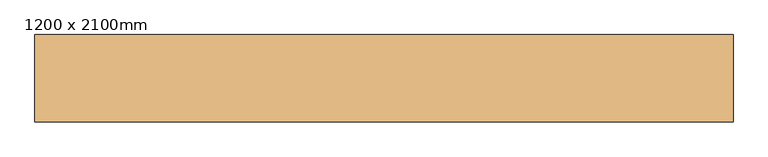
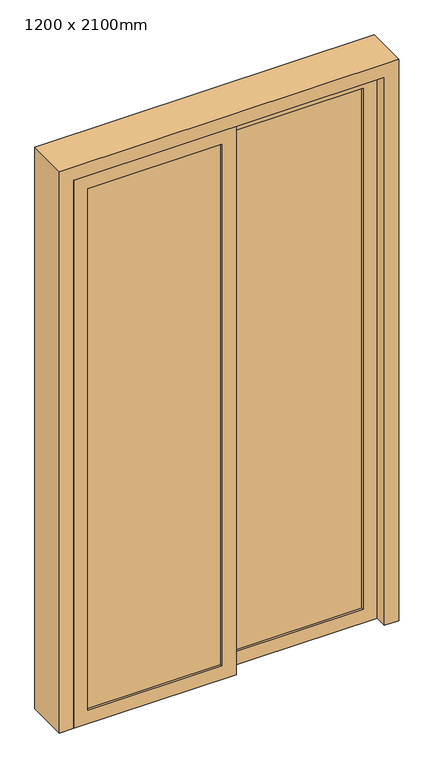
"""IFC4 building model written with IfcOpenShell, lengths in millimetres: door geometry, Porta veneziana de correr dupla sem revestimento : 1200 x 2100mm."""

from ifc_helpers import new_model, si_unit, point, frame, frame_2d, origin, place, context, project, spatial, polyline, circle_curve, trimmed, segment, composite_curve, outline, extrude, source, transform, mapped, element, save


def door_1200_x_2100mm_dfe7479b(model_context):
    return source(origin(), model_context, "Body", "SweptSolid", [
        extrude(outline(composite_curve([segment(trimmed(circle_curve(frame_2d((990.0, -10.0)), 10.0), [point((1000.0, -10.0))], [point((990.0, -20.0))], False, "CARTESIAN"), True, "CONTINUOUS"), segment(polyline([(990.0, -20.0), (810.0, -20.0)]), True, "CONTINUOUS"), segment(trimmed(circle_curve(frame_2d((810.0, -10.0)), 10.0), [point((810.0, -20.0))], [point((800.0, -10.0))], False, "CARTESIAN"), True, "CONTINUOUS"), segment(polyline([(800.0, -10.0), (800.0, 10.0)]), True, "CONTINUOUS"), segment(trimmed(circle_curve(frame_2d((810.0, 10.0)), 10.0), [point((800.0, 10.0))], [point((810.0, 20.0))], False, "CARTESIAN"), True, "CONTINUOUS"), segment(polyline([(810.0, 20.0), (990.0, 20.0)]), True, "CONTINUOUS"), segment(trimmed(circle_curve(frame_2d((990.0, 10.0)), 10.0), [point((990.0, 20.0))], [point((1000.0, 10.0))], False, "CARTESIAN"), True, "CONTINUOUS"), segment(polyline([(1000.0, 10.0), (1000.0, -10.0)]), True, "CONTINUOUS")], self_intersect=False), holes=[composite_curve([segment(trimmed(circle_curve(frame_2d((985.0, 0.0)), 5.0), [point((985.0, -5.0))], [point((985.0, 5.0))], True, "CARTESIAN"), True, "CONTINUOUS"), segment(trimmed(circle_curve(frame_2d((985.0, 0.0)), 5.0), [point((985.0, 5.0))], [point((985.0, -5.0))], True, "CARTESIAN"), True, "CONTINUOUS")], self_intersect=False), composite_curve([segment(trimmed(circle_curve(frame_2d((815.0, 0.0)), 5.0), [point((815.0, -5.0))], [point((815.0, 5.0))], True, "CARTESIAN"), True, "CONTINUOUS"), segment(trimmed(circle_curve(frame_2d((815.0, 0.0)), 5.0), [point((815.0, 5.0))], [point((815.0, -5.0))], True, "CARTESIAN"), True, "CONTINUOUS")], self_intersect=False), composite_curve([segment(polyline([(960.0, -10.0), (960.0, 10.0)]), True, "CONTINUOUS"), segment(trimmed(circle_curve(frame_2d((955.0, 10.0)), 5.0), [point((960.0, 10.0))], [point((955.0, 15.0))], True, "CARTESIAN"), True, "CONTINUOUS"), segment(polyline([(955.0, 15.0), (845.0, 15.0)]), True, "CONTINUOUS"), segment(trimmed(circle_curve(frame_2d((845.0, 10.0)), 5.0), [point((845.0, 15.0))], [point((840.0, 10.0))], True, "CARTESIAN"), True, "CONTINUOUS"), segment(polyline([(840.0, 10.0), (840.0, -10.0)]), True, "CONTINUOUS"), segment(trimmed(circle_curve(frame_2d((845.0, -10.0)), 5.0), [point((840.0, -10.0))], [point((845.0, -15.0))], True, "CARTESIAN"), True, "CONTINUOUS"), segment(polyline([(845.0, -15.0), (955.0, -15.0)]), True, "CONTINUOUS"), segment(trimmed(circle_curve(frame_2d((955.0, -10.0)), 5.0), [point((955.0, -15.0))], [point((960.0, -10.0))], True, "CARTESIAN"), True, "CONTINUOUS")], self_intersect=False)]), frame((0.0, 10.0, 0.0), z_axis=(0.0, 1.0, 0.0), x_axis=(0.0, 0.0, 1.0)), (0.0, 0.0, 1.0), 3.0),
        extrude(outline(polyline([(0.0, 550.0), (0.0, 600.0), (2100.0, 600.0), (2100.0, -600.0), (0.0, -600.0), (0.0, -550.0), (2050.0, -550.0), (2050.0, 550.0), (0.0, 550.0)])), frame((0.0, -75.0, 0.0), z_axis=(0.0, 1.0, 0.0), x_axis=(0.0, 0.0, 1.0)), (0.0, 0.0, 1.0), 150.0),
        extrude(outline(polyline([(2050.0, -25.0), (0.0, -25.0), (0.0, 550.0), (2050.0, 550.0), (2050.0, -25.0)]), holes=[polyline([(2000.0, 500.0), (50.0, 500.0), (50.0, 25.0), (2000.0, 25.0), (2000.0, 500.0)])]), frame((0.0, -30.0, 0.0), z_axis=(0.0, 1.0, 0.0), x_axis=(0.0, 0.0, 1.0)), (0.0, 0.0, 1.0), 40.0),
        extrude(outline(polyline([(2050.0, -550.0), (0.0, -550.0), (0.0, 25.0), (2050.0, 25.0), (2050.0, -550.0)]), holes=[polyline([(2000.0, -25.0), (50.0, -25.0), (50.0, -500.0), (2000.0, -500.0), (2000.0, -25.0)])]), frame((0.0, -75.0, 0.0), z_axis=(0.0, 1.0, 0.0), x_axis=(0.0, 0.0, 1.0)), (0.0, 0.0, 1.0), 40.0),
        extrude(outline(polyline([(-25.0, -43.0), (-25.0, -67.0), (-500.0, -67.0), (-500.0, -43.0), (-25.0, -43.0)])), frame((0.0, 0.0, 50.0), z_axis=(0.0, 0.0, 1.0), x_axis=(1.0, 0.0, 0.0)), (0.0, 0.0, 1.0), 1950.0),
        extrude(outline(polyline([(500.0, 2.0), (500.0, -22.0), (25.0, -22.0), (25.0, 2.0), (500.0, 2.0)])), frame((0.0, 0.0, 50.0), z_axis=(0.0, 0.0, 1.0), x_axis=(1.0, 0.0, 0.0)), (0.0, 0.0, 1.0), 1950.0),
        extrude(outline(polyline([(-25.0, -43.0), (-25.0, -67.0), (-500.0, -67.0), (-500.0, -43.0), (-25.0, -43.0)])), frame((0.0, 0.0, 50.0), z_axis=(0.0, 0.0, 1.0), x_axis=(1.0, 0.0, 0.0)), (0.0, 0.0, 1.0), 1950.0),
        extrude(outline(polyline([(500.0, 2.0), (500.0, -22.0), (25.0, -22.0), (25.0, 2.0), (500.0, 2.0)])), frame((0.0, 0.0, 50.0), z_axis=(0.0, 0.0, 1.0), x_axis=(1.0, 0.0, 0.0)), (0.0, 0.0, 1.0), 1950.0),
    ])


if __name__ == "__main__":
    model = new_model("IFC4")
    model_context = context("Model", 3, world=origin())
    ifc_project = project(units=[si_unit("LENGTHUNIT", "METRE", prefix="MILLI")], contexts=[model_context])
    site = spatial("IfcSite", under=ifc_project)
    building = spatial("IfcBuilding", under=site)
    placement = place(None, origin())
    door_1200_x_2100mm_shape = door_1200_x_2100mm_dfe7479b(model_context)
    element("IfcDoor", 1, ObjectType="Porta veneziana de correr dupla sem revestimento : 1200 x 2100mm", at=placement, inside=building, context=model_context, shape_type="MappedRepresentation", body=[
        mapped(door_1200_x_2100mm_shape, transform((0.0, 0.0, 0.0), x_axis=(1.0, 0.0, 0.0), y_axis=(0.0, 1.0, 0.0), z_axis=(0.0, 0.0, 1.0))),
    ])
    save(model, "model.ifc")
